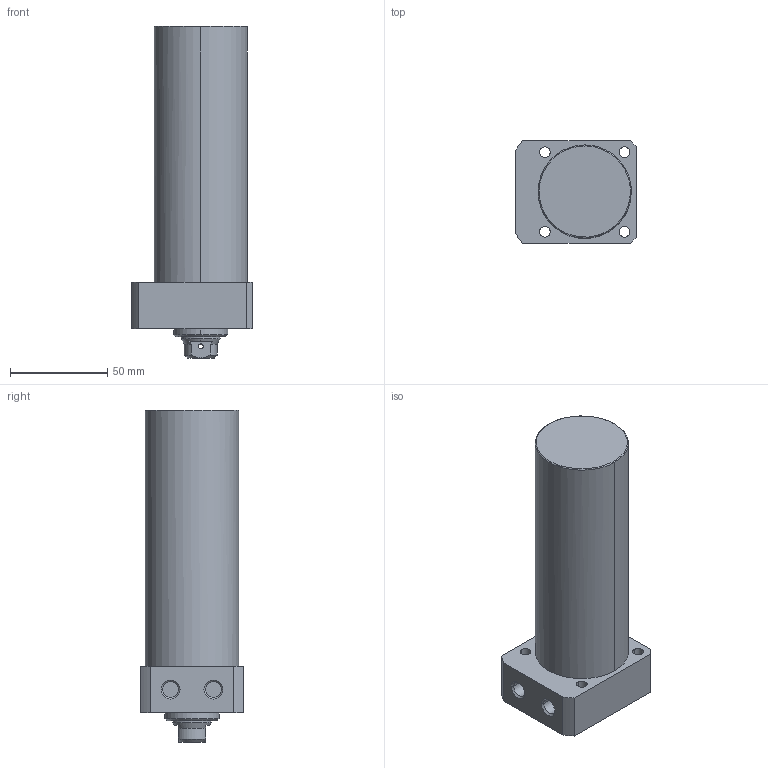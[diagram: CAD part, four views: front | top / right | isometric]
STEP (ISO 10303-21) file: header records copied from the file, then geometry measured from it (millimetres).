
FILE_DESCRIPTION((' '),'2;1');
FILE_NAME( 'TLLR-048CB-105.STEP.stp', '2025-10-24T16:34:33', (' '), ('--- Datakit www.datakit.com---'), ' Datakit CrossCadWare V2024.1 Dec 21 2023', 'Mastercam 2025', ' ');
FILE_SCHEMA(('AUTOMOTIVE_DESIGN { 1 0 10303 214 1 1 1 1 }'));
Length unit declared in the file: millimetre
Products named in the file (1): TLLR-048CB-105
Bounding box: 62 x 53 x 171 mm (x, y, z)
Volume: 317175.8 mm3; surface area: 35307.2 mm2
Topology: 1 solids, 1 shells, 67 faces, 197 edges, 136 vertices
Faces by surface type: cylinder 32, plane 19, cone 14, torus 2
Entity records: 3066 total; most frequent: CARTESIAN_POINT 1147, DIRECTION 426, ORIENTED_EDGE 390, EDGE_CURVE 195, AXIS2_PLACEMENT_3D 179, VERTEX_POINT 136, CIRCLE 111, EDGE_LOOP 85
